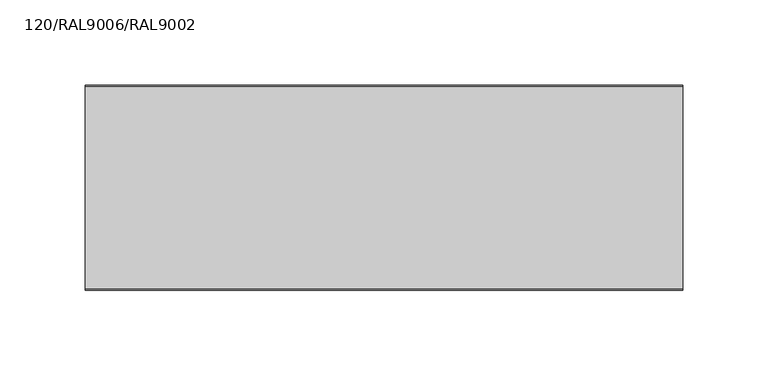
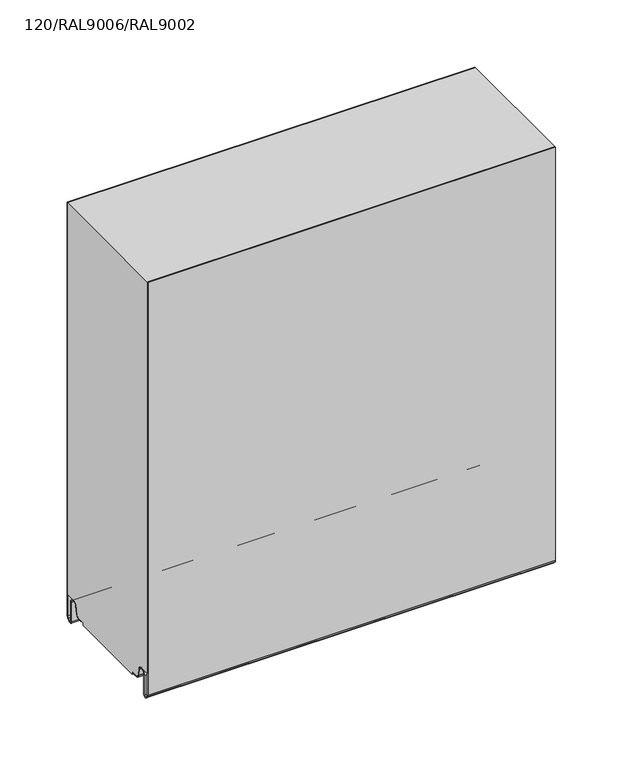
"""IFC4 building model written with IfcOpenShell, lengths in millimetres: plate geometry, TR_C_H_FTV_Panel_cut_GROOVE : 120/RAL9006/RAL9002."""

from ifc_helpers import new_model, si_unit, point, frame, frame_2d, origin, place, context, project, spatial, polyline, circle_curve, trimmed, segment, composite_curve, outline, extrude, source, transform, mapped, element, save


def plate_120_ral9006_ral9002_786550d8(model_context):
    return source(origin(), model_context, "Body", "SweptSolid", [
        extrude(outline(composite_curve([segment(polyline([(-0.8, 14.4000012), (-9.45, 14.4000012)]), True, "CONTINUOUS"), segment(trimmed(circle_curve(frame_2d((-9.45, 10.1500012)), 4.25), [point((-9.45, 14.4000012))], [point((-13.635433, 10.8880059))], True, "CARTESIAN"), True, "CONTINUOUS"), segment(polyline([(-13.635433, 10.8880059), (-14.7022582, 4.837739)]), True, "CONTINUOUS"), segment(trimmed(circle_curve(frame_2d((-17.6074411, 5.3500012)), 2.95), [point((-14.7022582, 4.837739))], [point((-17.6074411, 2.4000012))], False, "CARTESIAN"), True, "CONTINUOUS"), segment(polyline([(-17.6074411, 2.4000012), (-23.7, 2.4000012), (-23.7, 1.2e-06), (-96.3, 1.2e-06), (-96.3, 2.4000012), (-102.3925589, 2.4000012)]), True, "CONTINUOUS"), segment(trimmed(circle_curve(frame_2d((-102.3925589, 5.3500012)), 2.95), [point((-102.3925589, 2.4000012))], [point((-105.2977418, 4.837739))], False, "CARTESIAN"), True, "CONTINUOUS"), segment(polyline([(-105.2977418, 4.837739), (-106.364567, 10.8880059)]), True, "CONTINUOUS"), segment(trimmed(circle_curve(frame_2d((-110.55, 10.1500012)), 4.25), [point((-106.364567, 10.8880059))], [point((-110.55, 14.4000012))], True, "CARTESIAN"), True, "CONTINUOUS"), segment(polyline([(-110.55, 14.4000012), (-119.2, 14.4000012), (-119.2, 370.0), (-0.8, 370.0), (-0.8, 14.4000012)]), True, "CONTINUOUS")], self_intersect=False)), frame((-240.0, 0.0, 0.0), z_axis=(1.0, 0.0, 0.0), x_axis=(0.0, 1.0, 0.0)), (0.0, 0.0, 1.0), 350.0),
        extrude(outline(composite_curve([segment(polyline([(-21.0, 2.4000012), (-17.6074411, 2.4000012)]), True, "CONTINUOUS"), segment(trimmed(circle_curve(frame_2d((-17.6074411, 5.3500012)), 2.95), [point((-17.6074411, 2.4000012))], [point((-14.7022582, 4.837739))], True, "CARTESIAN"), True, "CONTINUOUS"), segment(polyline([(-14.7022582, 4.837739), (-13.635433, 10.8880059)]), True, "CONTINUOUS"), segment(trimmed(circle_curve(frame_2d((-9.45, 10.1500012)), 4.25), [point((-13.635433, 10.8880059))], [point((-5.2, 10.1500012))], False, "CARTESIAN"), True, "CONTINUOUS"), segment(polyline([(-5.2, 10.1500012), (-5.2, -7.4499988)]), True, "CONTINUOUS"), segment(trimmed(circle_curve(frame_2d((-4.05, -7.4499988)), 1.15), [point((-5.2, -7.4499988))], [point((-3.2368272, -8.2631716))], True, "CARTESIAN"), True, "CONTINUOUS"), segment(polyline([(-3.2368272, -8.2631716), (-1.3711418, -6.3974862)]), True, "CONTINUOUS"), segment(trimmed(circle_curve(frame_2d((-2.75, -5.018628)), 1.95), [point((-1.3711418, -6.3974862))], [point((-0.8, -5.018628))], True, "CARTESIAN"), True, "CONTINUOUS"), segment(polyline([(-0.8, -5.018628), (-0.8, 370.0), (0.0, 370.0), (0.0, -5.018628)]), True, "CONTINUOUS"), segment(trimmed(circle_curve(frame_2d((-2.75, -5.018628)), 2.75), [point((0.0, -5.018628))], [point((-0.8054564, -6.9631716))], False, "CARTESIAN"), True, "CONTINUOUS"), segment(polyline([(-0.8054564, -6.9631716), (-2.6711418, -8.8288571)]), True, "CONTINUOUS"), segment(trimmed(circle_curve(frame_2d((-4.05, -7.4499988)), 1.95), [point((-2.6711418, -8.8288571))], [point((-6.0, -7.4499988))], False, "CARTESIAN"), True, "CONTINUOUS"), segment(polyline([(-6.0, -7.4499988), (-6.0, 10.1500012)]), True, "CONTINUOUS"), segment(trimmed(circle_curve(frame_2d((-9.45, 10.1500012)), 3.45), [point((-6.0, 10.1500012))], [point((-12.8475867, 10.7490874))], True, "CARTESIAN"), True, "CONTINUOUS"), segment(polyline([(-12.8475867, 10.7490874), (-13.914412, 4.6988205)]), True, "CONTINUOUS"), segment(trimmed(circle_curve(frame_2d((-17.6074411, 5.3500012)), 3.75), [point((-13.914412, 4.6988205))], [point((-17.6074411, 1.6000012))], False, "CARTESIAN"), True, "CONTINUOUS"), segment(polyline([(-17.6074411, 1.6000012), (-21.0, 1.6000012), (-21.0, 2.4000012)]), True, "CONTINUOUS")], self_intersect=False)), frame((-240.0, 0.0, 0.0), z_axis=(1.0, 0.0, 0.0), x_axis=(0.0, 1.0, 0.0)), (0.0, 0.0, 1.0), 350.0),
        extrude(outline(composite_curve([segment(trimmed(circle_curve(frame_2d((-117.25, -5.018628)), 1.95), [point((-119.2, -5.018628))], [point((-118.6288582, -6.3974862))], True, "CARTESIAN"), True, "CONTINUOUS"), segment(polyline([(-118.6288582, -6.3974862), (-116.7631728, -8.2631716)]), True, "CONTINUOUS"), segment(trimmed(circle_curve(frame_2d((-115.95, -7.4499988)), 1.15), [point((-116.7631728, -8.2631716))], [point((-114.8, -7.4499988))], True, "CARTESIAN"), True, "CONTINUOUS"), segment(polyline([(-114.8, -7.4499988), (-114.8, 10.1500012)]), True, "CONTINUOUS"), segment(trimmed(circle_curve(frame_2d((-110.55, 10.1500012)), 4.25), [point((-114.8, 10.1500012))], [point((-106.364567, 10.8880059))], False, "CARTESIAN"), True, "CONTINUOUS"), segment(polyline([(-106.364567, 10.8880059), (-105.2977418, 4.837739)]), True, "CONTINUOUS"), segment(trimmed(circle_curve(frame_2d((-102.3925589, 5.3500012)), 2.95), [point((-105.2977418, 4.837739))], [point((-102.3925589, 2.4000012))], True, "CARTESIAN"), True, "CONTINUOUS"), segment(polyline([(-102.3925589, 2.4000012), (-99.0, 2.4000012), (-99.0, 1.6000012), (-102.3925589, 1.6000012)]), True, "CONTINUOUS"), segment(trimmed(circle_curve(frame_2d((-102.3925589, 5.3500012)), 3.75), [point((-102.3925589, 1.6000012))], [point((-106.085588, 4.6988205))], False, "CARTESIAN"), True, "CONTINUOUS"), segment(polyline([(-106.085588, 4.6988205), (-107.1524133, 10.7490874)]), True, "CONTINUOUS"), segment(trimmed(circle_curve(frame_2d((-110.55, 10.1500012)), 3.45), [point((-107.1524133, 10.7490874))], [point((-114.0, 10.1500012))], True, "CARTESIAN"), True, "CONTINUOUS"), segment(polyline([(-114.0, 10.1500012), (-114.0, -7.4499988)]), True, "CONTINUOUS"), segment(trimmed(circle_curve(frame_2d((-115.95, -7.4499988)), 1.95), [point((-114.0, -7.4499988))], [point((-117.3288582, -8.8288571))], False, "CARTESIAN"), True, "CONTINUOUS"), segment(polyline([(-117.3288582, -8.8288571), (-119.1945436, -6.9631716)]), True, "CONTINUOUS"), segment(trimmed(circle_curve(frame_2d((-117.25, -5.018628)), 2.75), [point((-119.1945436, -6.9631716))], [point((-120.0, -5.018628))], False, "CARTESIAN"), True, "CONTINUOUS"), segment(polyline([(-120.0, -5.018628), (-120.0, 370.0), (-119.2, 370.0), (-119.2, -5.018628)]), True, "CONTINUOUS")], self_intersect=False)), frame((-240.0, 0.0, 0.0), z_axis=(1.0, 0.0, 0.0), x_axis=(0.0, 1.0, 0.0)), (0.0, 0.0, 1.0), 350.0),
    ])


if __name__ == "__main__":
    model = new_model("IFC4")
    model_context = context("Model", 3, world=origin())
    ifc_project = project(units=[si_unit("LENGTHUNIT", "METRE", prefix="MILLI")], contexts=[model_context])
    site = spatial("IfcSite", under=ifc_project)
    building = spatial("IfcBuilding", under=site)
    placement = place(None, origin())
    plate_120_ral9006_ral9002_shape = plate_120_ral9006_ral9002_786550d8(model_context)
    element("IfcPlate", 1, ObjectType="TR_C_H_FTV_Panel_cut_GROOVE : 120/RAL9006/RAL9002", at=placement, inside=building, context=model_context, shape_type="MappedRepresentation", body=[
        mapped(plate_120_ral9006_ral9002_shape, transform((0.0, 0.0, 0.0), x_axis=(1.0, 0.0, 0.0), y_axis=(0.0, 1.0, 0.0), z_axis=(0.0, 0.0, 1.0))),
    ])
    save(model, "model.ifc")
